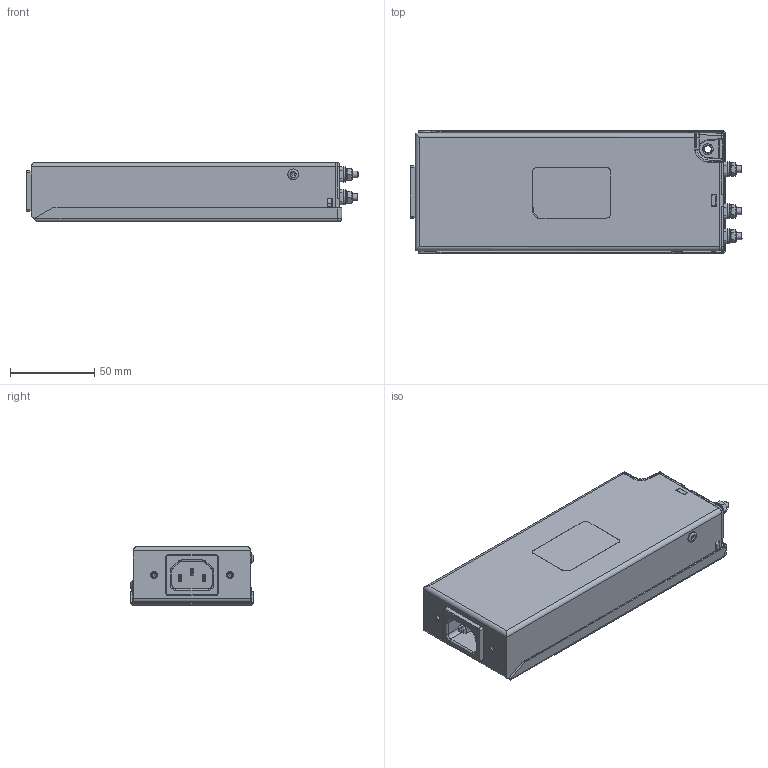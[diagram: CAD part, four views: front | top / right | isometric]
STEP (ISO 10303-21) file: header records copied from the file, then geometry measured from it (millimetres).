
FILE_DESCRIPTION(/* description */ (''),/* implementation_level */ '2;1');
FILE_NAME(/* name */ 'C:\Users\Christian.Ackermann\OneDrive - Schaffner EMV AG\Desktop\UMA_customerSTEP\FN266x-10_15-08.stp',/* time_stamp */ '2021-11-30T11:24:54+01:00',/* author */ ('Christian.Ackermann'),/* organization */ (''),/* preprocessor_version */ 'ST-DEVELOPER v18.1',/* originating_system */ 'Autodesk Inventor 2020',/* authorisation */ '');
FILE_SCHEMA (('AUTOMOTIVE_DESIGN { 1 0 10303 214 3 1 1 }'));
Length unit declared in the file: millimetre
Products named in the file (1): FN266x-10_15-08
Bounding box: 197.3 x 73 x 35.06 mm (x, y, z)
Volume: 434873.8 mm3; surface area: 78600.5 mm2
Topology: 1 solids, 1 shells, 1058 faces, 2707 edges, 1687 vertices
Faces by surface type: plane 507, cylinder 336, bspline 82, torus 61, cone 49, sphere 23
Full cylindrical faces by diameter (mm): 2 x2, 2.459 x2, 4 x6, 4.2 x1, 4.25 x2, 4.3 x3, 6.4 x1, 6.5 x2, 8.39 x2, 8.74 x3, 9 x3
Entity records: 35663 total; most frequent: CARTESIAN_POINT 8595, DIRECTION 5473, ORIENTED_EDGE 5404, EDGE_CURVE 2702, AXIS2_PLACEMENT_3D 1935, VERTEX_POINT 1687, LINE 1603, VECTOR 1603
